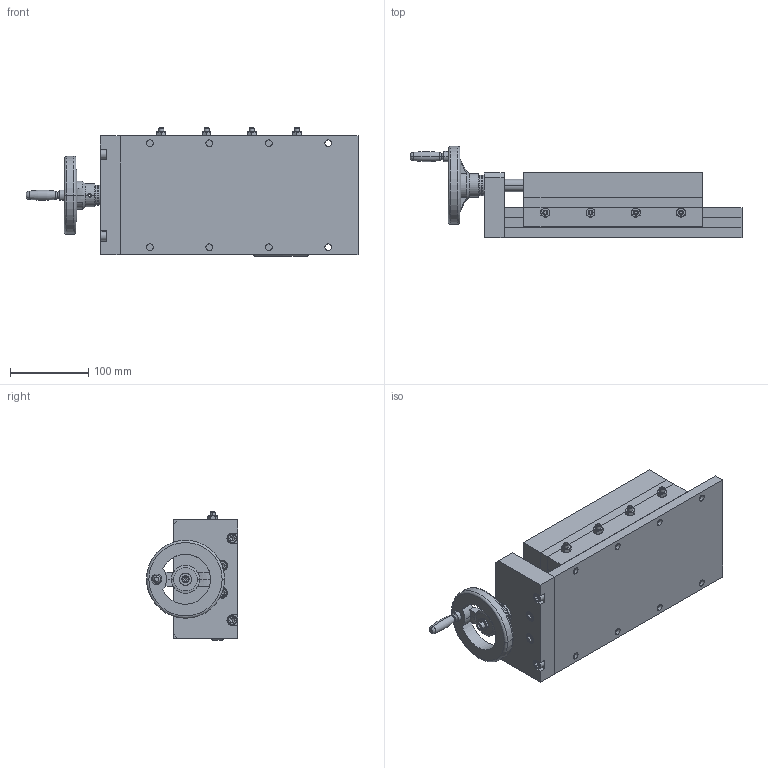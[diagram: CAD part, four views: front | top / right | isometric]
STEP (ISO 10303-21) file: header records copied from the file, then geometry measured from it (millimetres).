
FILE_DESCRIPTION (( 'STEP AP214' ), '1' );
FILE_NAME ('SW06-SL09-BL12-LS.STEP', '2011-11-04T18:45:42', ( '' ), ( '' ), 'SwSTEP 2.0', 'SolidWorks 2011', '' );
FILE_SCHEMA (( 'AUTOMOTIVE_DESIGN' ));
Length unit declared in the file: inch
Products named in the file (25): socket head cap screw_ai_HX-SHCS 0.25-20x0.5x0.5-N; EW-20; AHTNK100; 6681K11; Gen2 End Plate_06 EPLATE; socket head cap screw_ai_HX-SHCS 0.3125-18x0.625x0.625-N; EW-30; Lead Screw_5_8-8 x 04.12 Lg; spring pin slotted_ai_SPS 0.1875x1.25; Lead Nut_5_8-8; socket head cap screw_ai_HX-SHCS 0.3125-18x1.25x1.25-N; Gen2 Nut Plate_06x09 NPLATE; Gen2 SLIDE_SW06-SL09-BL12; Gen2 SADDLE_06x09 SADDLE; machine screw nut hex_ai_MSHXNUT 0.250-28-D-N; socket set screw cup point_ai_SSCUPSKT 0.25-28x1.25-HX-N; Tag; Gen2 Bar_06x09 BAR; Gen2 Adj Gib_06x09 ADJ GIB; Gen2 Gib_06x09 GIB; Gen2 Top plate_06x09 TPLATE; Gen2 BASE_06x12 BASE; Gen2 Hardplate_06x12 HPLATE; Gen2 Baseplate_06x12 BASE; SW06-SL09-BL12-LS
Assembly tree (39 placements, depth 4):
  SW06-SL09-BL12-LS
    EW-30
    Gen2 SLIDE_SW06-SL09-BL12
      Gen2 SADDLE_06x09 SADDLE
        machine screw nut hex_ai_MSHXNUT 0.250-28-D-N  x4
        Gen2 Adj Gib_06x09 ADJ GIB
        Gen2 Bar_06x09 BAR
        socket set screw cup point_ai_SSCUPSKT 0.25-28x1.25-HX-N  x4
        Gen2 Top plate_06x09 TPLATE
        Tag
        Gen2 Gib_06x09 GIB
      Gen2 BASE_06x12 BASE
        Gen2 Hardplate_06x12 HPLATE
        Gen2 Baseplate_06x12 BASE
    socket head cap screw_ai_HX-SHCS 0.3125-18x1.25x1.25-N  x8
    6681K11  x2
    spring pin slotted_ai_SPS 0.1875x1.25  x2
    socket head cap screw_ai_HX-SHCS 0.25-20x0.5x0.5-N
    Gen2 End Plate_06 EPLATE
    Lead Screw_5_8-8 x 04.12 Lg
    AHTNK100
    Lead Nut_5_8-8
    socket head cap screw_ai_HX-SHCS 0.3125-18x0.625x0.625-N
    EW-20
    Gen2 Nut Plate_06x09 NPLATE
Bounding box: 425.44 x 116.67 x 164.7 mm (x, y, z)
Volume: 3492369.5 mm3; surface area: 636861.1 mm2
Topology: 65 solids, 65 shells, 993 faces, 2410 edges, 1384 vertices
Faces by surface type: plane 376, cylinder 259, cone 186, bspline 116, torus 54, sphere 2
Entity records: 21832 total; most frequent: CARTESIAN_POINT 6375, DIRECTION 2941, ORIENTED_EDGE 2660, EDGE_CURVE 1330, AXIS2_PLACEMENT_3D 1169, VERTEX_POINT 851, EDGE_LOOP 727, VECTOR 603
